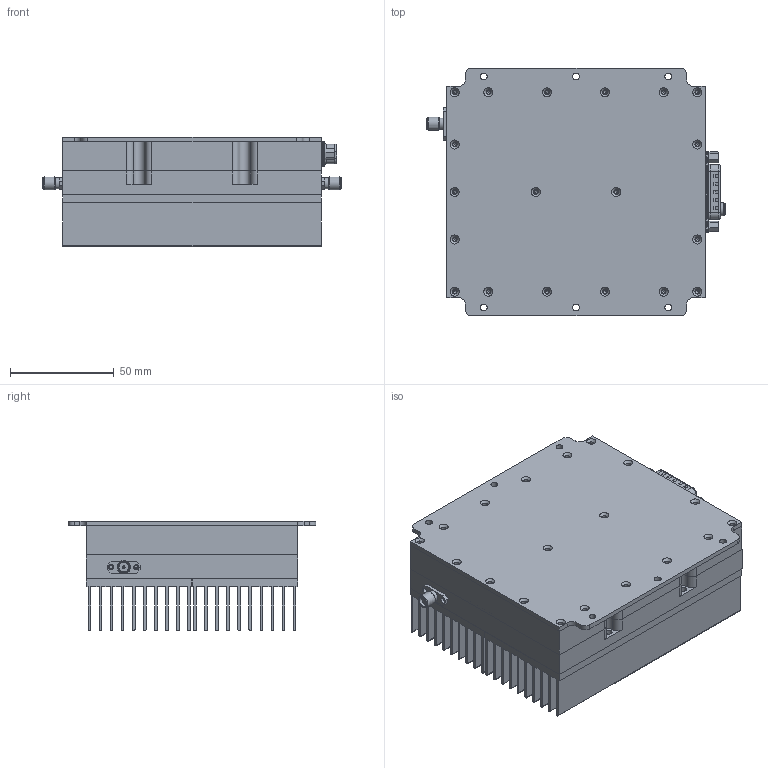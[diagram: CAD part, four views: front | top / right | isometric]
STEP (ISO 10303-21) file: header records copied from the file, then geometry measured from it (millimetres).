
FILE_DESCRIPTION((''),'2;1');
FILE_NAME('\\serpentor\Sales\Triad_Spec_Sheets\Triad_Spec_Sheet_Images\Housing_Images\STP\139 Housing.stp','2015-07-22T13:49:37',('Dean'),(''),'Autodesk Inventor 2013','Autodesk Inventor 2013','');
FILE_SCHEMA(('AUTOMOTIVE_DESIGN { 1 0 10303 214 1 1 1 1 }'));
Length unit declared in the file: inch
Products named in the file (14): TA1164-HS; T53153121; 410-003; T53153122R1; T50153121; T52153131; 400-001; 401-001; 561-001; T58155082; T58155081; 560-080PPH0125; 560-080HSC0250; T58155083
Assembly tree (21 placements, depth 2):
  TA1164-HS
    T53153121
    410-003  x2
    T53153122R1
    T50153121
    T52153131  x2
    400-001
    401-001  x2
    561-001  x2
    T58155082
    T58155081
    560-080PPH0125  x4
    560-080HSC0250  x2
    T58155083
Bounding box: 143.51 x 119.38 x 52.83 mm (x, y, z)
Volume: 298553.4 mm3; surface area: 255135.8 mm2
Topology: 21 solids, 21 shells, 1679 faces, 5230 edges, 3698 vertices
Faces by surface type: plane 837, cylinder 661, cone 106, torus 41, bspline 23, sphere 11
Full cylindrical faces by diameter (mm): 0.254 x2, 0.737 x2, 0.8 x2, 1 x10, 1.194 x48, 1.245 x2, 1.295 x2, 1.6 x5, 1.702 x55, 1.778 x10, 2.159 x18, 2.261 x2, 2.438 x33, 2.591 x4, 2.769 x2, 2.8 x2, 2.946 x4, 3 x2, 3.175 x8, 3.277 x14, 3.6 x4, 3.65 x2, 4.597 x2, 4.6 x2, 4.73 x4, 4.775 x12, 5.28 x2, 5.486 x4, 5.5 x2, 5.563 x8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
Entity records: 48579 total; most frequent: CARTESIAN_POINT 12455, DIRECTION 7306, ORIENTED_EDGE 7150, EDGE_CURVE 3575, AXIS2_PLACEMENT_3D 2677, VERTEX_POINT 2607, EDGE_LOOP 2108, VECTOR 1952
